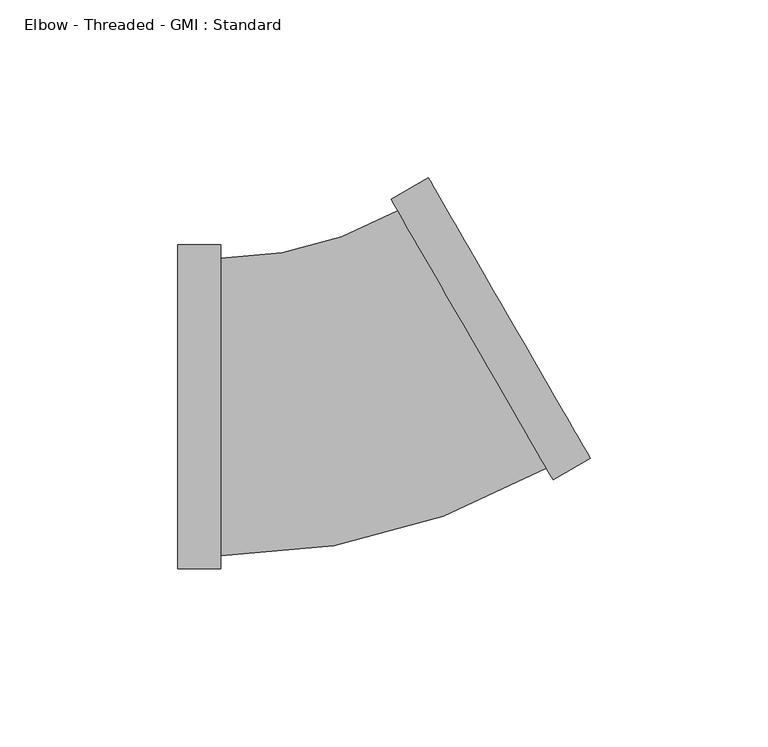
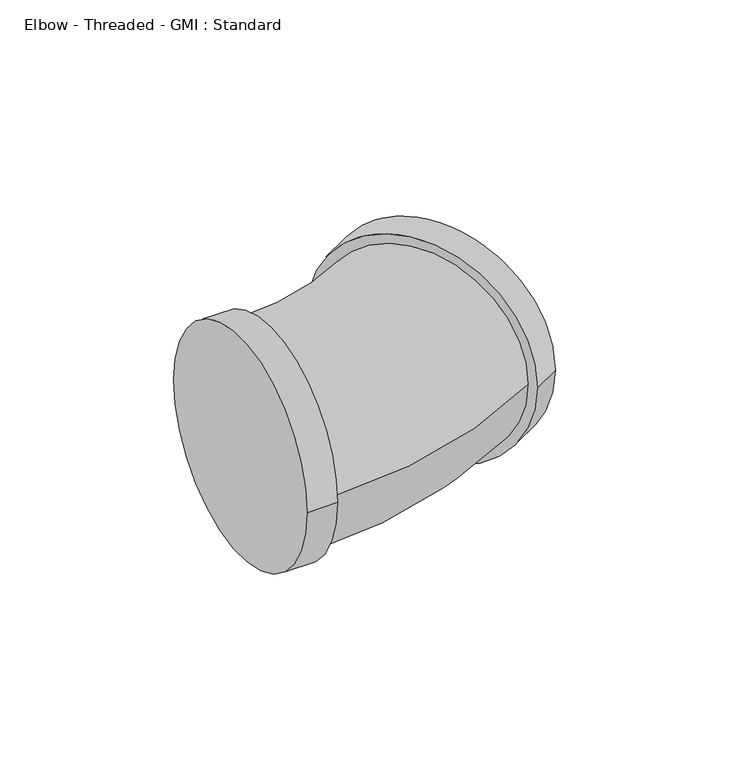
"""IFC4 building model written with IfcOpenShell, lengths in millimetres: pipe fitting geometry, Elbow - Threaded - GMI : Standard."""

from ifc_helpers import new_model, si_unit, point, frame, origin, place, context, project, spatial, circle_curve, ellipse_curve, trimmed, source, transform, mapped, element, save
from ifc_brep_helpers import plane_surface, cylinder_surface, revolved_surface, advanced_brep


def elbow_threaded_gmi_standard_e52ea759(model_context):
    return source(origin(), model_context, "Body", "AdvancedBrep", [
        advanced_brep(
        [(-50.0, -45.6, 0.0), (-50.0, 45.6, 0.0), (-37.9, -45.6, 0.0), (-37.9, 45.6, 0.0), (-37.9, -41.83, 0.0), (-37.9, 41.83, 0.0), (55.6223628, -20.5407584, 0.0), (10.0223628, 58.4407584, 0.0), (11.9073628, 55.1758426, 0.0), (53.7373628, -17.2758426, 0.0), (66.1012702, -14.4907584, 0.0), (20.5012702, 64.4907584, 0.0)],
        [
            (0, 1, circle_curve(frame((-50.0, 0.0, 0.0), z_axis=(-1.0, 0.0, 0.0), x_axis=(0.0, 1.0, 0.0)), 45.6)),
            (1, 0, circle_curve(frame((-50.0, 0.0, 0.0), z_axis=(-1.0, 0.0, 0.0), x_axis=(0.0, 1.0, 0.0)), 45.6)),
            (2, 3, circle_curve(frame((-37.9, 0.0, 0.0), z_axis=(1.0, 0.0, 0.0), x_axis=(0.0, 1.0, 0.0)), 45.6)),
            (3, 2, circle_curve(frame((-37.9, 0.0, 0.0), z_axis=(1.0, 0.0, 0.0), x_axis=(0.0, 1.0, 0.0)), 45.6)),
            (4, 5, circle_curve(frame((-37.9, 0.0, 0.0), z_axis=(-1.0, 0.0, 0.0), x_axis=(0.0, 1.0, 0.0)), 41.83)),
            (5, 4, circle_curve(frame((-37.9, 0.0, 0.0), z_axis=(-1.0, 0.0, 0.0), x_axis=(0.0, 1.0, 0.0)), 41.83)),
            (0, 2),
            (3, 1),
            (6, 7, circle_curve(frame((32.8223628, 18.95, 0.0), z_axis=(-0.8660254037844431, -0.4999999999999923, 0.0), x_axis=(-0.4999999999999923, 0.8660254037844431, 0.0)), 45.6)),
            (7, 6, circle_curve(frame((32.8223628, 18.95, 0.0), z_axis=(-0.8660254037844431, -0.4999999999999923, 0.0), x_axis=(-0.4999999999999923, 0.8660254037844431, 0.0)), 45.6)),
            (8, 9, circle_curve(frame((32.8223628, 18.95, 0.0), z_axis=(0.8660254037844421, 0.499999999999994, 0.0), x_axis=(-0.499999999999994, 0.8660254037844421, 0.0)), 41.83)),
            (9, 8, circle_curve(frame((32.8223628, 18.95, 0.0), z_axis=(0.8660254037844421, 0.499999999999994, 0.0), x_axis=(-0.499999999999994, 0.8660254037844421, 0.0)), 41.83)),
            (10, 11, circle_curve(frame((43.3012702, 25.0, 0.0), z_axis=(0.8660254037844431, 0.4999999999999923, 0.0), x_axis=(-0.4999999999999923, 0.8660254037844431, 0.0)), 45.6)),
            (11, 10, circle_curve(frame((43.3012702, 25.0, 0.0), z_axis=(0.8660254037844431, 0.4999999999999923, 0.0), x_axis=(-0.4999999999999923, 0.8660254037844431, 0.0)), 45.6)),
            (6, 10),
            (11, 7),
            (8, 5, circle_curve(frame((-37.9, 141.4447256, 0.0), z_axis=(0.0, 0.0, -1.0), x_axis=(0.0, -1.0, 0.0)), 99.6147256)),
            (4, 9, circle_curve(frame((-37.9, 141.4447256, 0.0), z_axis=(0.0, 0.0, 1.0), x_axis=(0.0, -1.0, 0.0)), 183.2747256)),
        ],
        [
            plane_surface(frame((-50.0, 0.0, 0.0), z_axis=(-1.0, 0.0, 0.0), x_axis=(0.0, 0.0, 1.0))),
            plane_surface(frame((-37.9, 0.0, 0.0), z_axis=(1.0, 0.0, 0.0), x_axis=(0.0, 0.0, 1.0))),
            cylinder_surface(frame((-50.0, 0.0, 0.0), z_axis=(-1.0, 0.0, 0.0), x_axis=(0.0, 1.0, 0.0)), 45.6),
            plane_surface(frame((32.8223628, 18.95, 0.0), z_axis=(-0.8660254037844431, -0.4999999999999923, 0.0), x_axis=(0.0, 0.0, 1.0))),
            plane_surface(frame((43.3012702, 25.0, 0.0), z_axis=(0.8660254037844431, 0.4999999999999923, 0.0), x_axis=(0.0, 0.0, 1.0))),
            cylinder_surface(frame((32.8223628, 18.95, 0.0), z_axis=(-0.8660254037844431, -0.4999999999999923, 0.0), x_axis=(-0.4999999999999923, 0.8660254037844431, 0.0)), 45.6),
            revolved_surface(trimmed(ellipse_curve(frame((-37.9, 0.0, 0.0), z_axis=(-1.0, 0.0, 0.0), x_axis=(0.0, 1.0, 0.0)), 41.83, 41.83), [point((-37.9, -41.83, 0.0))], [point((-37.9, 41.83, 0.0))], True, "CARTESIAN"), (-37.9, 141.4447256, 0.0), (0.0, 0.0, 1.0)),
            revolved_surface(trimmed(ellipse_curve(frame((-37.9, 0.0, 0.0), z_axis=(-1.0, 0.0, 0.0), x_axis=(0.0, 1.0, 0.0)), 41.83, 41.83), [point((-37.9, 41.83, 0.0))], [point((-37.9, -41.83, 0.0))], True, "CARTESIAN"), (-37.9, 141.4447256, 0.0), (0.0, 0.0, 1.0)),
        ],
        [
            (0, [[1, 2]]),
            (1, [[3, 4], [5, 6]]),
            (2, [[-1, 7, -4, 8]]),
            (2, [[-2, -8, -3, -7]]),
            (3, [[9, 10], [11, 12]]),
            (4, [[13, 14]]),
            (5, [[-9, 15, -14, 16]]),
            (5, [[-10, -16, -13, -15]]),
            (6, [[17, -5, 18, -11]]),
            (7, [[-17, -12, -18, -6]]),
        ],
    ),
    ])


if __name__ == "__main__":
    model = new_model("IFC4")
    model_context = context("Model", 3, world=origin())
    ifc_project = project(units=[si_unit("LENGTHUNIT", "METRE", prefix="MILLI")], contexts=[model_context])
    site = spatial("IfcSite", under=ifc_project)
    building = spatial("IfcBuilding", under=site)
    placement = place(None, origin())
    elbow_threaded_gmi_standard_shape = elbow_threaded_gmi_standard_e52ea759(model_context)
    element("IfcPipeFitting", 1, ObjectType="Elbow - Threaded - GMI : Standard", at=placement, inside=building, context=model_context, shape_type="MappedRepresentation", body=[
        mapped(elbow_threaded_gmi_standard_shape, transform((0.0, 0.0, 0.0), x_axis=(1.0, 0.0, 0.0), y_axis=(0.0, 1.0, 0.0), z_axis=(0.0, 0.0, 1.0))),
    ])
    save(model, "model.ifc")
